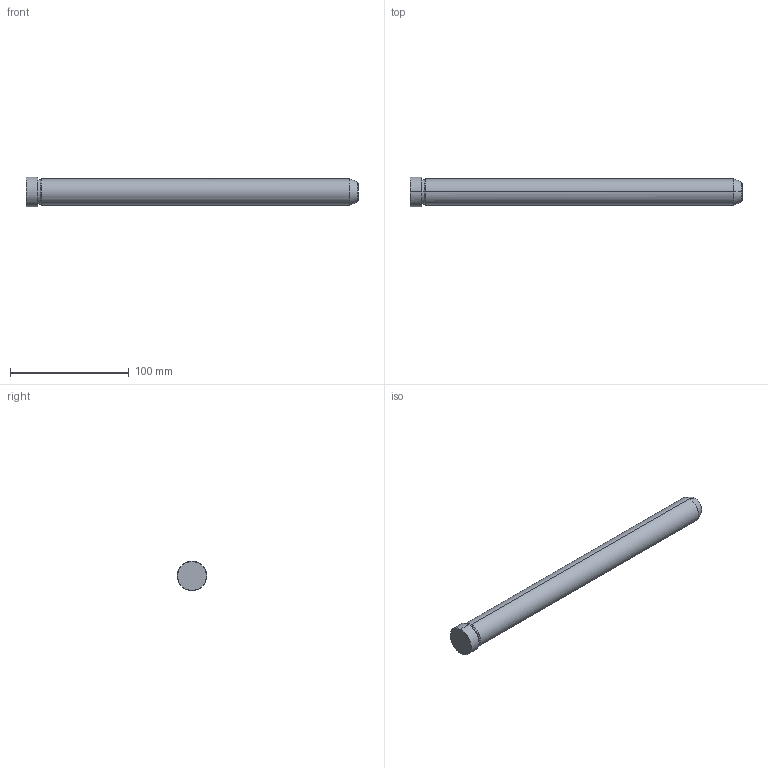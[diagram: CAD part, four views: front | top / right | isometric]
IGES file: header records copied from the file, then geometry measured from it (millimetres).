
Start section: START RECORD GO HERE.
Global section: file name: 549-22X280.igs; native system: DASSAULT SYSTEMES CATIA V5 R20 - www.3ds.com; preprocessor: CATIA Version 5 Release 20 ; author: Utente; organization: NB04-ASUS; date: 20211213.140208; units: millimetre
Bounding box: 280 x 25 x 25 mm (x, y, z)
Surface area: 20227.6 mm2 (no closed solid volume)
Topology: 0 solids, 0 shells, 19 faces, 112 edges, 112 vertices
Faces by surface type: revolution 16, plane 3
